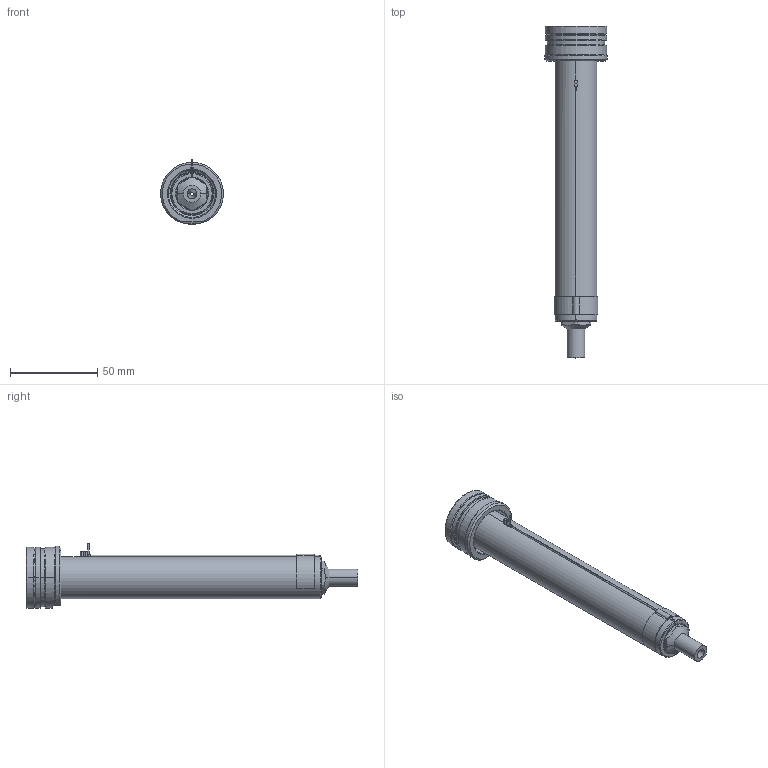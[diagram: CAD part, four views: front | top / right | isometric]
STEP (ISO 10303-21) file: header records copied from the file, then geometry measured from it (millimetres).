
FILE_DESCRIPTION((''),'2;1');
FILE_NAME('EO06_SG_ESG_160_SW','2024-02-19T12:19:20',('sundharh'),(''),'CREO PARAMETRIC BY PTC INC, 2023154','CREO PARAMETRIC BY PTC INC, 2023154','');
FILE_SCHEMA(('CONFIG_CONTROL_DESIGN'));
Length unit declared in the file: millimetre
Products named in the file (1): EO06_SG_ESG_160_SW
Bounding box: 35.93 x 190 x 37 mm (x, y, z)
Volume: 81984.8 mm3; surface area: 22720.2 mm2
Topology: 2 solids, 2 shells, 169 faces, 429 edges, 260 vertices
Faces by surface type: cylinder 68, plane 41, cone 30, torus 21, bspline 6, sphere 3
Entity records: 5829 total; most frequent: CARTESIAN_POINT 1705, DIRECTION 906, ORIENTED_EDGE 842, EDGE_CURVE 421, AXIS2_PLACEMENT_3D 378, VERTEX_POINT 260, CIRCLE 215, EDGE_LOOP 183
